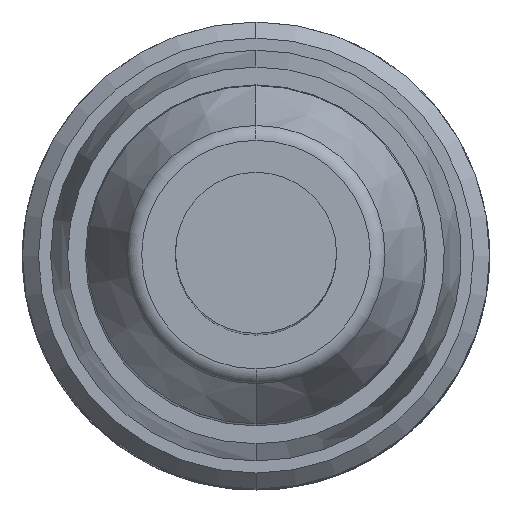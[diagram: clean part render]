
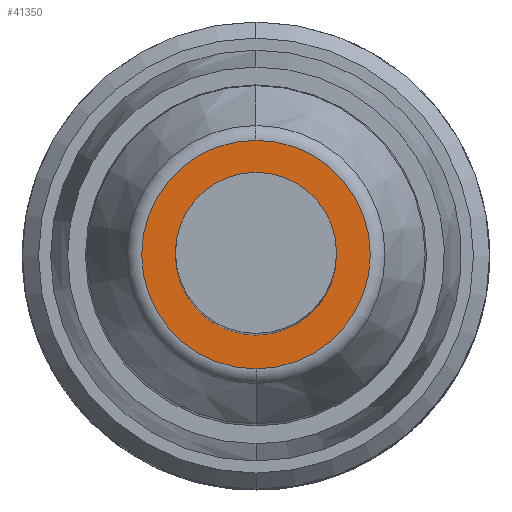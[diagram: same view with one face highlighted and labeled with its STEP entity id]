
A CAD part, top view. The second image highlights one B-rep face of the part: STEP entity #41350.
In plain terms, the highlighted planar face has unit normal (0, 0, 1) as drawn and (1, 0, 0) by its records, which use the part's own axes.
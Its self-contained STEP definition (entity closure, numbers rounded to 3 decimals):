
#40820=CARTESIAN_POINT('',(30.,2.508,
2.508));
#40830=VERTEX_POINT('',#40820);
#40920=CARTESIAN_POINT('',(30.,-2.508,
-2.508));
#40930=VERTEX_POINT('',#40920);
#40960=CARTESIAN_POINT('',(30.,0.,
0.));
#40970=DIRECTION('',(1.,0.,
0.));
#40980=DIRECTION('',(0.,0.707,
0.707));
#40990=AXIS2_PLACEMENT_3D('',#40960,#40970,#40980);
#41000=CIRCLE('',#40990,3.547);
#41010=EDGE_CURVE('',#40930,#40830,#41000,.T.);
#41060=CARTESIAN_POINT('',(30.,-1.254,
1.254));
#41070=DIRECTION('',(-1.,0.,
0.));
#41080=DIRECTION('',(0.,0.707,
-0.707));
#41090=AXIS2_PLACEMENT_3D('',#41060,#41070,#41080);
#41100=PLANE('',#41090);
#41110=EDGE_CURVE('',#40830,#40930,#41000,.T.);
#41120=ORIENTED_EDGE('',*,*,#41110,.T.);
#41130=ORIENTED_EDGE('',*,*,#41010,.T.);
#41140=EDGE_LOOP('',(#41130,#41120));
#41150=FACE_OUTER_BOUND('',#41140,.T.);
#41160=CARTESIAN_POINT('',(30.,0.,
0.));
#41170=DIRECTION('',(1.,0.,
0.));
#41180=DIRECTION('',(0.,-0.707,
-0.707));
#41190=AXIS2_PLACEMENT_3D('',#41160,#41170,#41180);
#41200=CIRCLE('',#41190,2.5);
#41210=CARTESIAN_POINT('',(30.,0.,
2.5));
#41220=VERTEX_POINT('',#41210);
#41230=CARTESIAN_POINT('',(30.,-1.768,
-1.768));
#41240=VERTEX_POINT('',#41230);
#41250=EDGE_CURVE('',#41220,#41240,#41200,.T.);
#41260=ORIENTED_EDGE('',*,*,#41250,.F.);
#41270=CARTESIAN_POINT('',(30.,1.767,
1.768));
#41280=VERTEX_POINT('',#41270);
#41290=EDGE_CURVE('',#41240,#41280,#41200,.T.);
#41300=ORIENTED_EDGE('',*,*,#41290,.F.);
#41310=EDGE_CURVE('',#41280,#41220,#41200,.T.);
#41320=ORIENTED_EDGE('',*,*,#41310,.F.);
#41330=EDGE_LOOP('',(#41320,#41300,#41260));
#41340=FACE_BOUND('',#41330,.T.);
#41350=ADVANCED_FACE('',(#41150,#41340),#41100,.F.);
